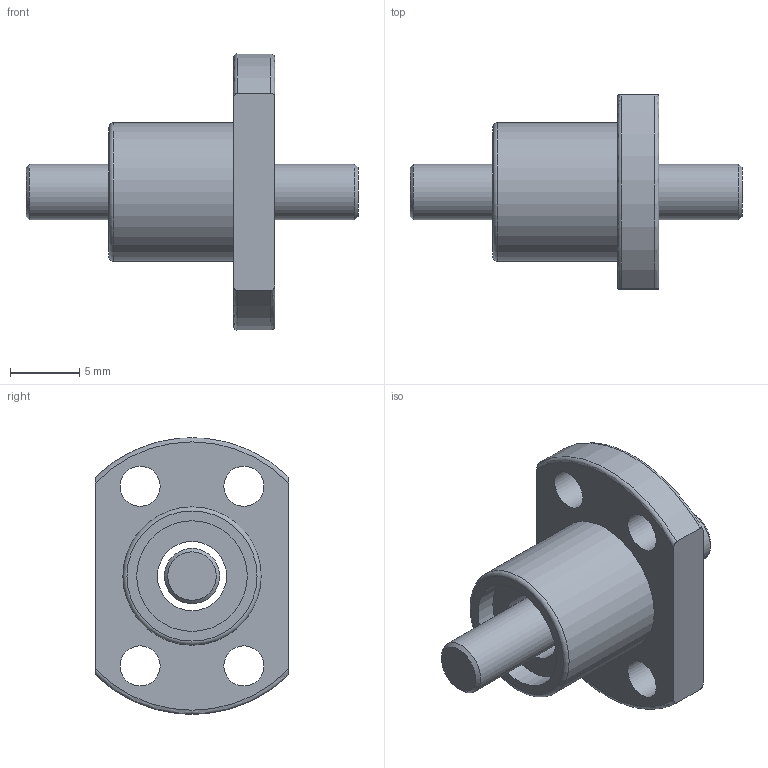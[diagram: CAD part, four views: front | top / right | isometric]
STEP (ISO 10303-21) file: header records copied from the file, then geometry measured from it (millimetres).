
FILE_DESCRIPTION(/* description */ (''),/* implementation_level */ '2;1');
FILE_NAME(/* name */ 'SFK0401',/* time_stamp */ '2007-10-26T10:39:01+08:00',/* author */ (''),/* organization */ (''),/* preprocessor_version */ 'ST-DEVELOPER v9',/* originating_system */ 'EDS PLM SOLUTIONS - UNIGRAPHICS NX 1.0',/* authorisation */ '');
FILE_SCHEMA (('CONFIG_CONTROL_DESIGN'));
Length unit declared in the file: millimetre
Products named in the file (1): FANNDA0400c6
Bounding box: 24 x 14 x 19.97 mm (x, y, z)
Volume: 1364.3 mm3; surface area: 1516.2 mm2
Topology: 2 solids, 2 shells, 27 faces, 61 edges, 41 vertices
Faces by surface type: cylinder 11, plane 9, torus 5, cone 2
Full cylindrical faces by diameter (mm): 2.9 x4, 4 x1, 5 x1, 8 x2, 10 x1
Entity records: 914 total; most frequent: CARTESIAN_POINT 260, DIRECTION 122, ORIENTED_EDGE 90, AXIS2_PLACEMENT_3D 57, EDGE_LOOP 52, EDGE_CURVE 45, VERTEX_POINT 37, FACE_BOUND 35
